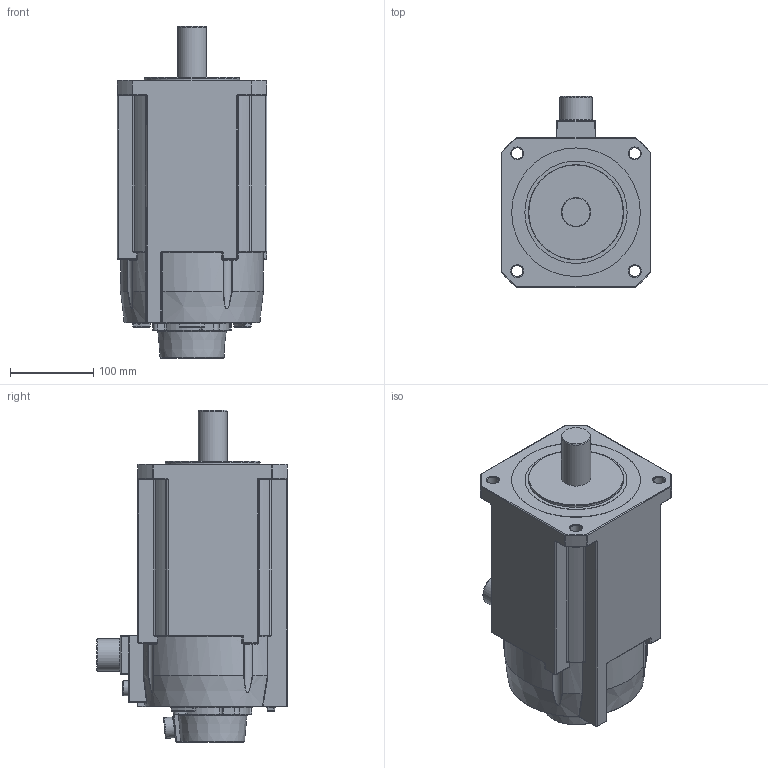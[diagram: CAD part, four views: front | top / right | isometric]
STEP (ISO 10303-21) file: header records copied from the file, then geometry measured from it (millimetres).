
FILE_DESCRIPTION(/* description */ (''),/* implementation_level */ '2;1');
FILE_NAME(/* name */ '01-180BAH48015 - FZ.stp',/* time_stamp */ '2020-08-27T15:13:22+08:00',/* author */ (''),/* organization */ (''),/* preprocessor_version */ 'ST-DEVELOPER v16',/* originating_system */ 'SIEMENS PLM Software NX 10.0',/* authorisation */ '');
FILE_SCHEMA (('CONFIG_CONTROL_DESIGN'));
Length unit declared in the file: millimetre
Products named in the file (1): 01-180BAH48015 - FZ
Bounding box: 180 x 229.5 x 399 mm (x, y, z)
Volume: 8288687.8 mm3; surface area: 286652.6 mm2
Topology: 1 solids, 1 shells, 576 faces, 1360 edges, 726 vertices
Faces by surface type: cylinder 228, torus 149, plane 79, bspline 59, sphere 52, cone 9
Full cylindrical faces by diameter (mm): 6.8 x2, 13.5 x4, 18 x1, 25 x1, 35 x1, 38.6 x1, 114.3 x1, 123 x1, 154.5 x1
Entity records: 18237 total; most frequent: CARTESIAN_POINT 5633, DIRECTION 2829, ORIENTED_EDGE 2502, EDGE_CURVE 1251, AXIS2_PLACEMENT_3D 1219, VERTEX_POINT 722, CIRCLE 682, EDGE_LOOP 627
